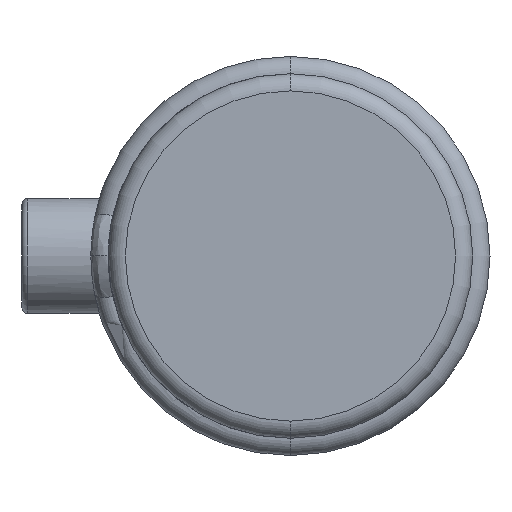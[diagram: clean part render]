
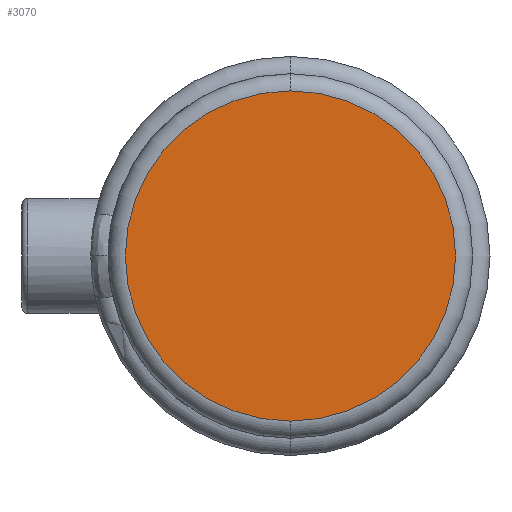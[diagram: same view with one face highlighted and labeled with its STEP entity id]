
A CAD part, left-side view. The second image highlights one B-rep face of the part: STEP entity #3070.
In plain terms, the highlighted planar face has unit normal (-1, 0, 0).
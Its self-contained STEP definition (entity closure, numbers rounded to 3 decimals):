
#295 = DIRECTION ( 'NONE',  ( 0., 0., 1. ) ) ;
#561 = VERTEX_POINT ( 'NONE', #1672 ) ;
#964 = PLANE ( 'NONE',  #1064 ) ;
#1064 = AXIS2_PLACEMENT_3D ( 'NONE', #3622, #3999, #1721 ) ;
#1672 = CARTESIAN_POINT ( 'NONE',  ( 0., 0., -28.75 ) ) ;
#1721 = DIRECTION ( 'NONE',  ( 0., 0., 1. ) ) ;
#1860 = DIRECTION ( 'NONE',  ( -1., 0., 0. ) ) ;
#1878 = EDGE_LOOP ( 'NONE', ( #3362, #4491 ) ) ;
#2326 = AXIS2_PLACEMENT_3D ( 'NONE', #4819, #2548, #295 ) ;
#2509 = AXIS2_PLACEMENT_3D ( 'NONE', #4132, #1860, #4509 ) ;
#2548 = DIRECTION ( 'NONE',  ( -1., 0., 0. ) ) ;
#2920 = CIRCLE ( 'NONE', #2509, 28.75 ) ;
#2954 = CIRCLE ( 'NONE', #2326, 28.75 ) ;
#3070 = ADVANCED_FACE ( 'NONE', ( #3794 ), #964, .T. ) ;
#3362 = ORIENTED_EDGE ( 'NONE', *, *, #3487, .T. ) ;
#3487 = EDGE_CURVE ( 'NONE', #3556, #561, #2920, .T. ) ;
#3556 = VERTEX_POINT ( 'NONE', #4237 ) ;
#3622 = CARTESIAN_POINT ( 'NONE',  ( 0., 0., 0. ) ) ;
#3794 = FACE_OUTER_BOUND ( 'NONE', #1878, .T. ) ;
#3999 = DIRECTION ( 'NONE',  ( -1., 0., 0. ) ) ;
#4132 = CARTESIAN_POINT ( 'NONE',  ( 0., 0., 0. ) ) ;
#4173 = EDGE_CURVE ( 'NONE', #561, #3556, #2954, .T. ) ;
#4237 = CARTESIAN_POINT ( 'NONE',  ( 0., 0., 28.75 ) ) ;
#4491 = ORIENTED_EDGE ( 'NONE', *, *, #4173, .T. ) ;
#4509 = DIRECTION ( 'NONE',  ( 0., 0., 1. ) ) ;
#4819 = CARTESIAN_POINT ( 'NONE',  ( 0., 0., 0. ) ) ;
